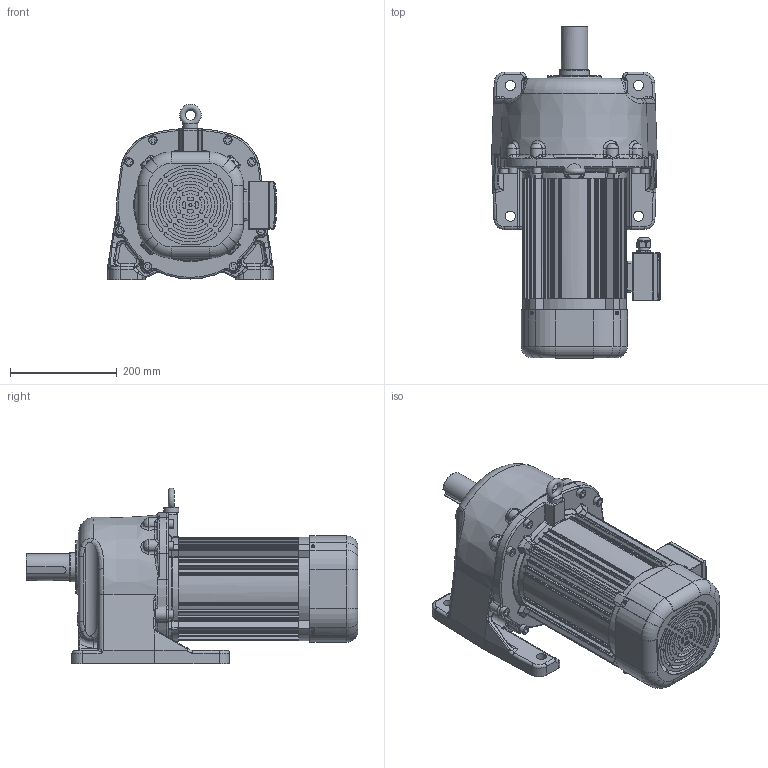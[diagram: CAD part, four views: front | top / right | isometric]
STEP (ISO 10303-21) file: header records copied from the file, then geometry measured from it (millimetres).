
FILE_DESCRIPTION(/* description */ (''),/* implementation_level */ '2;1');
FILE_NAME(/* name */ 'Z:\동력 3D 파일\PML181_2.2kW_Brake_3D.stp',/* time_stamp */ '2021-11-30T15:37:44+09:00',/* author */ ('jaebok'),/* organization */ (''),/* preprocessor_version */ 'ST-DEVELOPER v18.1',/* originating_system */ 'Autodesk Inventor 2022',/* authorisation */ '');
FILE_SCHEMA (('AUTOMOTIVE_DESIGN { 1 0 10303 214 3 1 1 }'));
Products named in the file (1): 부품12
Bounding box: 316 x 621.6 x 328.98 mm (x, y, z)
Volume: 8036139.8 mm3; surface area: 1523876.8 mm2
Topology: 1 solids, 40 shells, 3186 faces, 8044 edges, 4808 vertices
Faces by surface type: plane 1031, cylinder 908, bspline 624, torus 323, cone 188, sphere 112
Full cylindrical faces by diameter (mm): 3.242 x4, 3.25 x1, 3.6 x4, 4 x21, 5 x13, 6 x5, 6.8 x4, 7 x8, 8 x9, 8.4 x8, 9 x4, 10 x17, 10.2 x1, 11 x8, 12 x2, 12.5 x1, 15 x1, 16 x8, 19 x4, 20 x2, 21 x1, 22 x1, 23.6 x1, 25 x1, 26 x1, 28 x1, 36 x2, 48 x1, 49.6 x1, 50 x2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
Entity records: 122388 total; most frequent: CARTESIAN_POINT 46041, ORIENTED_EDGE 15644, DIRECTION 14819, EDGE_CURVE 7822, AXIS2_PLACEMENT_3D 5951, VERTEX_POINT 4808, EDGE_LOOP 3410, CIRCLE 3312
